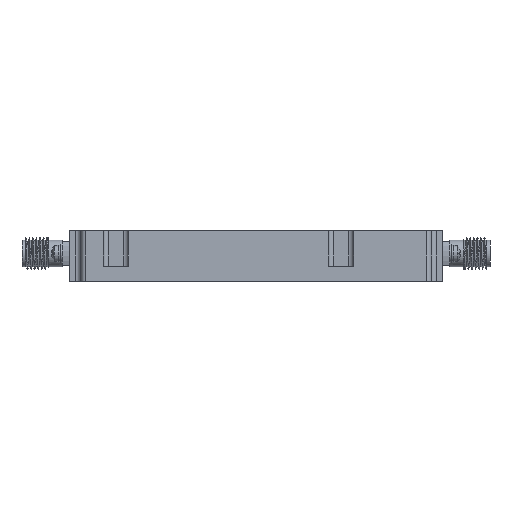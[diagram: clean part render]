
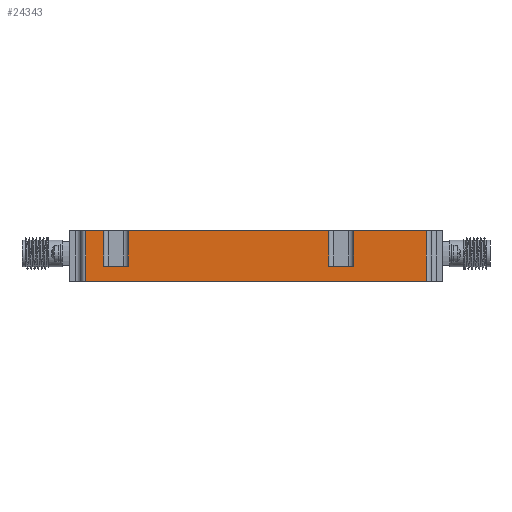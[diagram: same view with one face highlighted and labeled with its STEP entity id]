
A CAD part, front view. The second image highlights one B-rep face of the part: STEP entity #24343.
In plain terms, the highlighted planar face has unit normal (0, -1, 0).
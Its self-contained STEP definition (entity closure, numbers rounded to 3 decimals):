
#2002 = CARTESIAN_POINT ( 'NONE',  ( 121.081, 32.209, 10. ) ) ;
#2431 = DIRECTION ( 'NONE',  ( 0., 0., 1. ) ) ;
#6645 = CARTESIAN_POINT ( 'NONE',  ( 121.081, 32.209, 3. ) ) ;
#7198 = VERTEX_POINT ( 'NONE', #2002 ) ;
#9431 = VERTEX_POINT ( 'NONE', #126881 ) ;
#9501 = ORIENTED_EDGE ( 'NONE', *, *, #119830, .F. ) ;
#12889 = VECTOR ( 'NONE', #108357, 1000. ) ;
#13769 = DIRECTION ( 'NONE',  ( 0., 0., -1. ) ) ;
#14108 = PLANE ( 'NONE',  #39534 ) ;
#17884 = EDGE_CURVE ( 'NONE', #75317, #42830, #87258, .T. ) ;
#18022 = EDGE_CURVE ( 'NONE', #98122, #39221, #102146, .T. ) ;
#21807 = EDGE_CURVE ( 'NONE', #27373, #9431, #104925, .T. ) ;
#21966 = DIRECTION ( 'NONE',  ( 0., 1., 0. ) ) ;
#22145 = ORIENTED_EDGE ( 'NONE', *, *, #116092, .F. ) ;
#22694 = VECTOR ( 'NONE', #38374, 1000. ) ;
#24343 = ADVANCED_FACE ( 'NONE', ( #29835 ), #14108, .F. ) ;
#24748 = EDGE_CURVE ( 'NONE', #27373, #109118, #47134, .T. ) ;
#25087 = ORIENTED_EDGE ( 'NONE', *, *, #21807, .F. ) ;
#27373 = VERTEX_POINT ( 'NONE', #45820 ) ;
#29032 = VECTOR ( 'NONE', #53331, 1000. ) ;
#29835 = FACE_OUTER_BOUND ( 'NONE', #126025, .T. ) ;
#30374 = LINE ( 'NONE', #119540, #61472 ) ;
#31560 = VECTOR ( 'NONE', #86116, 1000. ) ;
#33262 = ORIENTED_EDGE ( 'NONE', *, *, #79037, .F. ) ;
#33779 = CARTESIAN_POINT ( 'NONE',  ( 121.081, 32.209, 3. ) ) ;
#34320 = ORIENTED_EDGE ( 'NONE', *, *, #81103, .F. ) ;
#35375 = CARTESIAN_POINT ( 'NONE',  ( 53.081, 32.209, 0. ) ) ;
#38374 = DIRECTION ( 'NONE',  ( -1., 0., 0. ) ) ;
#38567 = LINE ( 'NONE', #6645, #86239 ) ;
#38744 = LINE ( 'NONE', #98000, #12889 ) ;
#39221 = VERTEX_POINT ( 'NONE', #84480 ) ;
#39534 = AXIS2_PLACEMENT_3D ( 'NONE', #93613, #21966, #2431 ) ;
#40312 = LINE ( 'NONE', #89846, #41353 ) ;
#41353 = VECTOR ( 'NONE', #120363, 1000. ) ;
#42830 = VERTEX_POINT ( 'NONE', #120846 ) ;
#45820 = CARTESIAN_POINT ( 'NONE',  ( 101.581, 32.209, 10. ) ) ;
#47134 = LINE ( 'NONE', #86878, #61715 ) ;
#47863 = CARTESIAN_POINT ( 'NONE',  ( 61.581, 32.209, 10. ) ) ;
#49361 = DIRECTION ( 'NONE',  ( 0., 0., 1. ) ) ;
#49419 = EDGE_CURVE ( 'NONE', #104352, #60862, #79575, .T. ) ;
#51458 = VECTOR ( 'NONE', #13769, 1000. ) ;
#53331 = DIRECTION ( 'NONE',  ( 1., 0., 0. ) ) ;
#56885 = DIRECTION ( 'NONE',  ( 1., 0., 0. ) ) ;
#58002 = VECTOR ( 'NONE', #113875, 1000. ) ;
#59190 = LINE ( 'NONE', #70234, #84374 ) ;
#59226 = EDGE_CURVE ( 'NONE', #75317, #98122, #30374, .T. ) ;
#60722 = DIRECTION ( 'NONE',  ( 0., 0., -1. ) ) ;
#60862 = VERTEX_POINT ( 'NONE', #95283 ) ;
#61472 = VECTOR ( 'NONE', #61641, 1000. ) ;
#61641 = DIRECTION ( 'NONE',  ( 0., 0., -1. ) ) ;
#61715 = VECTOR ( 'NONE', #124621, 1000. ) ;
#65273 = CARTESIAN_POINT ( 'NONE',  ( 101.581, 32.209, 10. ) ) ;
#69835 = EDGE_CURVE ( 'NONE', #80243, #108700, #38744, .T. ) ;
#70234 = CARTESIAN_POINT ( 'NONE',  ( 61.581, 32.209, 10. ) ) ;
#73133 = VECTOR ( 'NONE', #60722, 1000. ) ;
#75317 = VERTEX_POINT ( 'NONE', #102288 ) ;
#78737 = CARTESIAN_POINT ( 'NONE',  ( 121.081, 32.209, 10. ) ) ;
#79037 = EDGE_CURVE ( 'NONE', #9431, #60862, #38567, .T. ) ;
#79575 = LINE ( 'NONE', #110135, #73133 ) ;
#80243 = VERTEX_POINT ( 'NONE', #100152 ) ;
#81103 = EDGE_CURVE ( 'NONE', #39221, #109118, #59190, .T. ) ;
#84374 = VECTOR ( 'NONE', #49361, 1000. ) ;
#84421 = CARTESIAN_POINT ( 'NONE',  ( 56.581, 32.209, 3. ) ) ;
#84480 = CARTESIAN_POINT ( 'NONE',  ( 61.581, 32.209, 3. ) ) ;
#84592 = CARTESIAN_POINT ( 'NONE',  ( 121.081, 32.209, 10. ) ) ;
#86116 = DIRECTION ( 'NONE',  ( 0., 0., 1. ) ) ;
#86178 = ORIENTED_EDGE ( 'NONE', *, *, #69835, .F. ) ;
#86239 = VECTOR ( 'NONE', #56885, 1000. ) ;
#86878 = CARTESIAN_POINT ( 'NONE',  ( 121.081, 32.209, 10. ) ) ;
#87258 = LINE ( 'NONE', #78737, #22694 ) ;
#89846 = CARTESIAN_POINT ( 'NONE',  ( 121.081, 32.209, 10. ) ) ;
#93331 = LINE ( 'NONE', #112839, #31560 ) ;
#93613 = CARTESIAN_POINT ( 'NONE',  ( 121.081, 32.209, 10. ) ) ;
#95283 = CARTESIAN_POINT ( 'NONE',  ( 106.581, 32.209, 3. ) ) ;
#98000 = CARTESIAN_POINT ( 'NONE',  ( 121.081, 32.209, 0. ) ) ;
#98122 = VERTEX_POINT ( 'NONE', #84421 ) ;
#98146 = ORIENTED_EDGE ( 'NONE', *, *, #17884, .T. ) ;
#100152 = CARTESIAN_POINT ( 'NONE',  ( 121.081, 32.209, 0. ) ) ;
#102146 = LINE ( 'NONE', #33779, #29032 ) ;
#102288 = CARTESIAN_POINT ( 'NONE',  ( 56.581, 32.209, 10. ) ) ;
#104352 = VERTEX_POINT ( 'NONE', #109790 ) ;
#104925 = LINE ( 'NONE', #65273, #51458 ) ;
#106664 = LINE ( 'NONE', #84592, #58002 ) ;
#107896 = EDGE_CURVE ( 'NONE', #7198, #104352, #40312, .T. ) ;
#108357 = DIRECTION ( 'NONE',  ( -1., 0., 0. ) ) ;
#108700 = VERTEX_POINT ( 'NONE', #35375 ) ;
#109118 = VERTEX_POINT ( 'NONE', #47863 ) ;
#109790 = CARTESIAN_POINT ( 'NONE',  ( 106.581, 32.209, 10. ) ) ;
#110135 = CARTESIAN_POINT ( 'NONE',  ( 106.581, 32.209, 3. ) ) ;
#112839 = CARTESIAN_POINT ( 'NONE',  ( 53.081, 32.209, 10. ) ) ;
#113875 = DIRECTION ( 'NONE',  ( 0., 0., -1. ) ) ;
#113881 = ORIENTED_EDGE ( 'NONE', *, *, #107896, .T. ) ;
#116000 = ORIENTED_EDGE ( 'NONE', *, *, #59226, .F. ) ;
#116092 = EDGE_CURVE ( 'NONE', #7198, #80243, #106664, .T. ) ;
#119048 = ORIENTED_EDGE ( 'NONE', *, *, #18022, .F. ) ;
#119540 = CARTESIAN_POINT ( 'NONE',  ( 56.581, 32.209, 10. ) ) ;
#119830 = EDGE_CURVE ( 'NONE', #108700, #42830, #93331, .T. ) ;
#120363 = DIRECTION ( 'NONE',  ( -1., 0., 0. ) ) ;
#120846 = CARTESIAN_POINT ( 'NONE',  ( 53.081, 32.209, 10. ) ) ;
#123888 = ORIENTED_EDGE ( 'NONE', *, *, #24748, .T. ) ;
#124621 = DIRECTION ( 'NONE',  ( -1., 0., 0. ) ) ;
#126025 = EDGE_LOOP ( 'NONE', ( #127874, #33262, #25087, #123888, #34320, #119048, #116000, #98146, #9501, #86178, #22145, #113881 ) ) ;
#126881 = CARTESIAN_POINT ( 'NONE',  ( 101.581, 32.209, 3. ) ) ;
#127874 = ORIENTED_EDGE ( 'NONE', *, *, #49419, .T. ) ;
